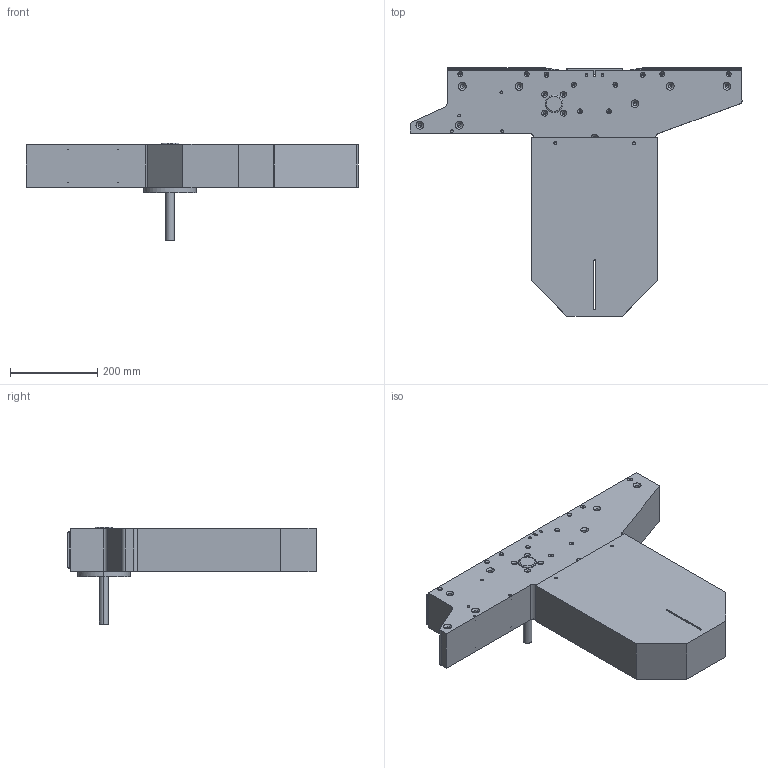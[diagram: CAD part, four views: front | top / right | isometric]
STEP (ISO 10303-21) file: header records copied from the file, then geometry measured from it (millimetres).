
FILE_DESCRIPTION (( 'STEP AP214' ), '1' );
FILE_NAME ('FMCD DD 0L.step', '2017-04-07T11:08:08', ( '' ), ( '' ), 'SwSTEP 2.0', 'SolidWorks 2016', '' );
FILE_SCHEMA (( 'AUTOMOTIVE_DESIGN' ));
Length unit declared in the file: millimetre
Products named in the file (1): FMCD DD 0L
Bounding box: 760.08 x 568.2 x 224 mm (x, y, z)
Volume: 20859050.2 mm3; surface area: 798564 mm2
Topology: 1 solids, 1 shells, 480 faces, 1122 edges, 641 vertices
Faces by surface type: cylinder 188, cone 180, plane 94, bspline 14, torus 4
Entity records: 15029 total; most frequent: CARTESIAN_POINT 3080, DIRECTION 2399, ORIENTED_EDGE 2076, EDGE_CURVE 1038, AXIS2_PLACEMENT_3D 938, VERTEX_POINT 641, EDGE_LOOP 565, VECTOR 523
